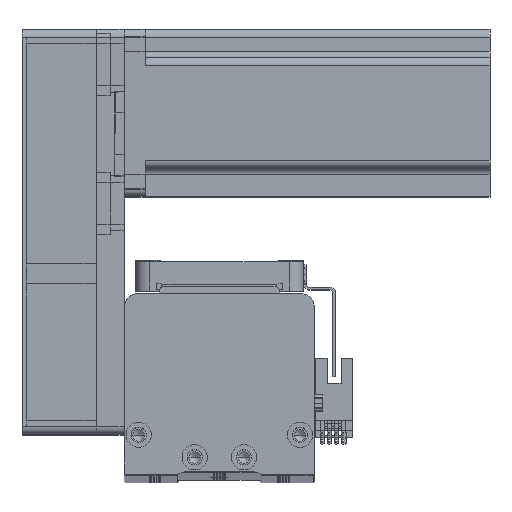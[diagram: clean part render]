
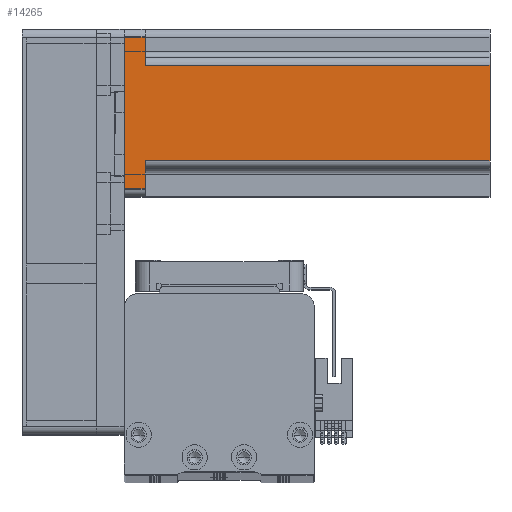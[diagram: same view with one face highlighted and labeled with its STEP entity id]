
A CAD part, top view. The second image highlights one B-rep face of the part: STEP entity #14265.
In plain terms, the highlighted planar face has unit normal (0, 0, 1) as drawn and (0, 1, 0) by its records, which use the part's own axes.
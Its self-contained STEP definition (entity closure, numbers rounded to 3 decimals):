
#314 = EDGE_LOOP ( 'NONE', ( #12034, #867, #36638, #51295, #14125, #52372, #24303, #32054 ) ) ;
#867 = ORIENTED_EDGE ( 'NONE', *, *, #30853, .T. ) ;
#927 = AXIS2_PLACEMENT_3D ( 'NONE', #16742, #45321, #20852 ) ;
#6365 = FACE_OUTER_BOUND ( 'NONE', #314, .T. ) ;
#6620 = LINE ( 'NONE', #51357, #36707 ) ;
#8608 = LINE ( 'NONE', #38680, #50800 ) ;
#9082 = CARTESIAN_POINT ( 'NONE',  ( 27., 30., 7.5 ) ) ;
#9650 = DIRECTION ( 'NONE',  ( 1., 0., 0. ) ) ;
#12034 = ORIENTED_EDGE ( 'NONE', *, *, #49247, .T. ) ;
#12441 = EDGE_CURVE ( 'NONE', #41029, #44957, #41946, .T. ) ;
#12444 = PLANE ( 'NONE',  #927 ) ;
#12837 = VERTEX_POINT ( 'NONE', #14199 ) ;
#14125 = ORIENTED_EDGE ( 'NONE', *, *, #47831, .F. ) ;
#14199 = CARTESIAN_POINT ( 'NONE',  ( -27., 30., 7.5 ) ) ;
#14265 = ADVANCED_FACE ( 'NONE', ( #6365 ), #12444, .F. ) ;
#16742 = CARTESIAN_POINT ( 'NONE',  ( 30., 30., 130.7 ) ) ;
#17649 = VERTEX_POINT ( 'NONE', #32524 ) ;
#19617 = EDGE_CURVE ( 'NONE', #23860, #12837, #6620, .T. ) ;
#20515 = LINE ( 'NONE', #49403, #51814 ) ;
#20852 = DIRECTION ( 'NONE',  ( 1., 0., 0. ) ) ;
#21905 = VERTEX_POINT ( 'NONE', #9082 ) ;
#22456 = LINE ( 'NONE', #29616, #42951 ) ;
#23860 = VERTEX_POINT ( 'NONE', #32151 ) ;
#24303 = ORIENTED_EDGE ( 'NONE', *, *, #27087, .T. ) ;
#24492 = LINE ( 'NONE', #45543, #44967 ) ;
#24913 = DIRECTION ( 'NONE',  ( 0., 0., -1. ) ) ;
#27087 = EDGE_CURVE ( 'NONE', #41308, #23860, #22456, .T. ) ;
#27109 = LINE ( 'NONE', #39989, #38031 ) ;
#29453 = VERTEX_POINT ( 'NONE', #39918 ) ;
#29616 = CARTESIAN_POINT ( 'NONE',  ( 30., 30., 0. ) ) ;
#30047 = CARTESIAN_POINT ( 'NONE',  ( -20., 30., 7.5 ) ) ;
#30853 = EDGE_CURVE ( 'NONE', #17649, #29453, #8608, .T. ) ;
#32054 = ORIENTED_EDGE ( 'NONE', *, *, #19617, .T. ) ;
#32151 = CARTESIAN_POINT ( 'NONE',  ( -27., 30., 0. ) ) ;
#32524 = CARTESIAN_POINT ( 'NONE',  ( -17., 30., 7.5 ) ) ;
#33716 = DIRECTION ( 'NONE',  ( -1., 0., 0. ) ) ;
#36408 = VECTOR ( 'NONE', #9650, 1000. ) ;
#36476 = EDGE_CURVE ( 'NONE', #41029, #29453, #27109, .T. ) ;
#36638 = ORIENTED_EDGE ( 'NONE', *, *, #36476, .F. ) ;
#36707 = VECTOR ( 'NONE', #43311, 1000. ) ;
#38031 = VECTOR ( 'NONE', #44227, 1000. ) ;
#38589 = CARTESIAN_POINT ( 'NONE',  ( 17., 30., 7.5 ) ) ;
#38680 = CARTESIAN_POINT ( 'NONE',  ( -17., 30., 130.7 ) ) ;
#39918 = CARTESIAN_POINT ( 'NONE',  ( -17., 30., 130.7 ) ) ;
#39989 = CARTESIAN_POINT ( 'NONE',  ( 30., 30., 130.7 ) ) ;
#40746 = EDGE_CURVE ( 'NONE', #21905, #41308, #20515, .T. ) ;
#41029 = VERTEX_POINT ( 'NONE', #43796 ) ;
#41308 = VERTEX_POINT ( 'NONE', #48399 ) ;
#41946 = LINE ( 'NONE', #44685, #52776 ) ;
#42379 = DIRECTION ( 'NONE',  ( 0., 0., -1. ) ) ;
#42951 = VECTOR ( 'NONE', #33716, 1000. ) ;
#43311 = DIRECTION ( 'NONE',  ( 0., 0., 1. ) ) ;
#43796 = CARTESIAN_POINT ( 'NONE',  ( 17., 30., 130.7 ) ) ;
#44227 = DIRECTION ( 'NONE',  ( -1., 0., 0. ) ) ;
#44685 = CARTESIAN_POINT ( 'NONE',  ( 17., 30., 130.7 ) ) ;
#44957 = VERTEX_POINT ( 'NONE', #38589 ) ;
#44967 = VECTOR ( 'NONE', #49682, 1000. ) ;
#45321 = DIRECTION ( 'NONE',  ( 0., -1., 0. ) ) ;
#45543 = CARTESIAN_POINT ( 'NONE',  ( 20., 30., 7.5 ) ) ;
#47831 = EDGE_CURVE ( 'NONE', #21905, #44957, #24492, .T. ) ;
#48399 = CARTESIAN_POINT ( 'NONE',  ( 27., 30., 0. ) ) ;
#49247 = EDGE_CURVE ( 'NONE', #12837, #17649, #49855, .T. ) ;
#49403 = CARTESIAN_POINT ( 'NONE',  ( 27., 30., 130.7 ) ) ;
#49682 = DIRECTION ( 'NONE',  ( -1., 0., 0. ) ) ;
#49855 = LINE ( 'NONE', #30047, #36408 ) ;
#50620 = DIRECTION ( 'NONE',  ( 0., 0., 1. ) ) ;
#50800 = VECTOR ( 'NONE', #50620, 1000. ) ;
#51295 = ORIENTED_EDGE ( 'NONE', *, *, #12441, .T. ) ;
#51357 = CARTESIAN_POINT ( 'NONE',  ( -27., 30., 130.7 ) ) ;
#51814 = VECTOR ( 'NONE', #24913, 1000. ) ;
#52372 = ORIENTED_EDGE ( 'NONE', *, *, #40746, .T. ) ;
#52776 = VECTOR ( 'NONE', #42379, 1000. ) ;
